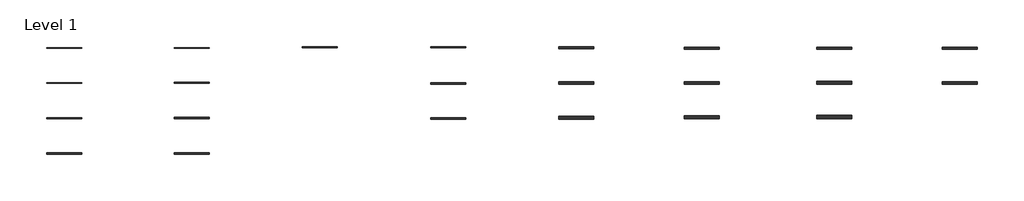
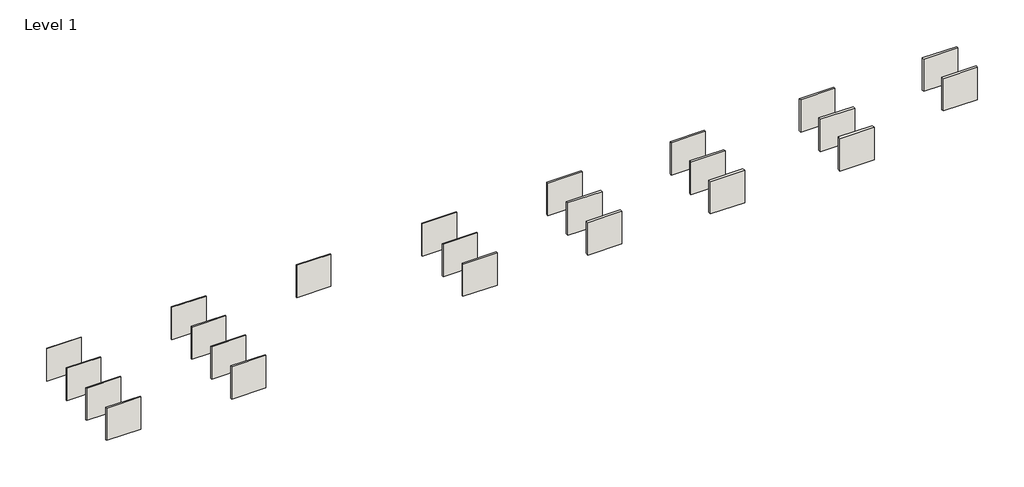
# One storey: 23 walls.
"""IFC4 building model written with IfcOpenShell, lengths in millimetres."""

from ifc_helpers import new_model, si_unit, origin, origin_with_axes, place, context, project, spatial, polyline, outline, extrude, element, save

model = new_model("IFC4")

# Units and contexts
model_context = context("Model", 3, world=origin())
ifc_project = project(units=[si_unit("LENGTHUNIT", "METRE", prefix="MILLI")], contexts=[model_context])

# Site, building, storey
site = spatial("IfcSite", under=ifc_project)
building = spatial("IfcBuilding", under=site)
storey = spatial("IfcBuildingStorey", under=building, Name="Level 1", Elevation=0.0)

# Walls
placement = place(None, origin())
element("IfcWall", 1, ObjectType="VE FR45 450 -/AA M45", at=placement, inside=storey, context=model_context, shape_type="SweptSolid", body=[
    extrude(outline(polyline([(-30829.3743374, -13106.2909442), (-34829.3743374, -13106.2909442), (-34829.3743374, -13036.290942), (-30829.3743374, -13036.290942), (-30829.3743374, -13106.2909442)])), origin_with_axes(), (0.0, 0.0, 1.0), 4000.0),
])
element("IfcWall", 2, ObjectType="VE FR70 450 -/AA M45", at=placement, inside=storey, context=model_context, shape_type="SweptSolid", body=[
    extrude(outline(polyline([(-30829.3743374, -17123.8603078), (-34829.3743374, -17123.8603078), (-34829.3743374, -17028.8603048), (-30829.3743374, -17028.8603048), (-30829.3743374, -17123.8603078)])), origin_with_axes(), (0.0, 0.0, 1.0), 4000.0),
])
element("IfcWall", 3, ObjectType="VE FR95 450 -/AA M45", at=placement, inside=storey, context=model_context, shape_type="SweptSolid", body=[
    extrude(outline(polyline([(-30829.3743374, -21141.4296714), (-34829.3743374, -21141.4296714), (-34829.3743374, -21021.4296676), (-30829.3743374, -21021.4296676), (-30829.3743374, -21141.4296714)])), origin_with_axes(), (0.0, 0.0, 1.0), 4000.0),
])
element("IfcWall", 4, ObjectType="VE FR120 450 -/AA M45", at=placement, inside=storey, context=model_context, shape_type="SweptSolid", body=[
    extrude(outline(polyline([(-30829.3743374, -25207.4034851), (-34829.3743374, -25207.4034851), (-34829.3743374, -25062.4034805), (-30829.3743374, -25062.4034805), (-30829.3743374, -25207.4034851)])), origin_with_axes(), (0.0, 0.0, 1.0), 4000.0),
])
element("IfcWall", 5, ObjectType="VE FR45 450 -/AAA M45", at=placement, inside=storey, context=model_context, shape_type="SweptSolid", body=[
    extrude(outline(polyline([(-16205.0453485, -13106.2909442), (-20205.0453485, -13106.2909442), (-20205.0453485, -13021.2909415), (-16205.0453485, -13021.2909415), (-16205.0453485, -13106.2909442)])), origin_with_axes(), (0.0, 0.0, 1.0), 4000.0),
])
element("IfcWall", 6, ObjectType="VE FR70 450 -/AAA M45", at=placement, inside=storey, context=model_context, shape_type="SweptSolid", body=[
    extrude(outline(polyline([(-16205.0453485, -17123.8603078), (-20205.0453485, -17123.8603078), (-20205.0453485, -17013.8603043), (-16205.0453485, -17013.8603043), (-16205.0453485, -17123.8603078)])), origin_with_axes(), (0.0, 0.0, 1.0), 4000.0),
])
element("IfcWall", 7, ObjectType="VE FR95 450 -/AAA M45", at=placement, inside=storey, context=model_context, shape_type="SweptSolid", body=[
    extrude(outline(polyline([(-16205.0453485, -21141.4296714), (-20205.0453485, -21141.4296714), (-20205.0453485, -21006.4296671), (-16205.0453485, -21006.4296671), (-16205.0453485, -21141.4296714)])), origin_with_axes(), (0.0, 0.0, 1.0), 4000.0),
])
element("IfcWall", 8, ObjectType="VE FR120 450 -/AAA M45", at=placement, inside=storey, context=model_context, shape_type="SweptSolid", body=[
    extrude(outline(polyline([(-16205.0453485, -25207.4034851), (-20205.0453485, -25207.4034851), (-20205.0453485, -25047.40348), (-16205.0453485, -25047.40348), (-16205.0453485, -25207.4034851)])), origin_with_axes(), (0.0, 0.0, 1.0), 4000.0),
])
element("IfcWall", 9, ObjectType="VE FR45 450 AA/AA M45", at=placement, inside=storey, context=model_context, shape_type="SweptSolid", body=[
    extrude(outline(polyline([(-1557.4424045, -13021.2909415), (-5557.4424045, -13021.2909415), (-5557.4424045, -12926.2909385), (-1557.4424045, -12926.2909385), (-1557.4424045, -13021.2909415)])), origin_with_axes(), (0.0, 0.0, 1.0), 4000.0),
])
element("IfcWall", 10, ObjectType="VE FR70 450 AA/AA M45", at=placement, inside=storey, context=model_context, shape_type="SweptSolid", body=[
    extrude(outline(polyline([(13151.8991673, -13021.2909415), (9151.8991673, -13021.2909415), (9151.8991673, -12901.2909377), (13151.8991673, -12901.2909377), (13151.8991673, -13021.2909415)])), origin_with_axes(), (0.0, 0.0, 1.0), 4000.0),
])
element("IfcWall", 11, ObjectType="VE FR95 450 AA/AA M45", at=placement, inside=storey, context=model_context, shape_type="SweptSolid", body=[
    extrude(outline(polyline([(13151.8991673, -17204.027693), (9151.8991673, -17204.027693), (9151.8991673, -17059.0276884), (13151.8991673, -17059.0276884), (13151.8991673, -17204.027693)])), origin_with_axes(), (0.0, 0.0, 1.0), 4000.0),
])
element("IfcWall", 12, ObjectType="VE FR120 450 AA/AA M45", at=placement, inside=storey, context=model_context, shape_type="SweptSolid", body=[
    extrude(outline(polyline([(13151.8991673, -21230.1067236), (9151.8991673, -21230.1067236), (9151.8991673, -21060.1067182), (13151.8991673, -21060.1067182), (13151.8991673, -21230.1067236)])), origin_with_axes(), (0.0, 0.0, 1.0), 4000.0),
])
element("IfcWall", 13, ObjectType="VD FR70 450 AA/AA M140", at=placement, inside=storey, context=model_context, shape_type="SweptSolid", body=[
    extrude(outline(polyline([(27755.5858329, -13161.2909396), (23755.5858329, -13161.2909396), (23755.5858329, -12931.2909322), (27755.5858329, -12931.2909322), (27755.5858329, -13161.2909396)])), origin_with_axes(), (0.0, 0.0, 1.0), 4000.0),
])
element("IfcWall", 14, ObjectType="VD FR95 450 AA/AA M140", at=placement, inside=storey, context=model_context, shape_type="SweptSolid", body=[
    extrude(outline(polyline([(27755.5858329, -17204.027693), (23755.5858329, -17204.027693), (23755.5858329, -16904.0276834), (27755.5858329, -16904.0276834), (27755.5858329, -17204.027693)])), origin_with_axes(), (0.0, 0.0, 1.0), 4000.0),
])
element("IfcWall", 15, ObjectType="VD FR120 450 AA/AA M140", at=placement, inside=storey, context=model_context, shape_type="SweptSolid", body=[
    extrude(outline(polyline([(27755.5858329, -21230.1067236), (23755.5858329, -21230.1067236), (23755.5858329, -20880.1067124), (27755.5858329, -20880.1067124), (27755.5858329, -21230.1067236)])), origin_with_axes(), (0.0, 0.0, 1.0), 4000.0),
])
element("IfcWall", 16, ObjectType="VD FR70 450 AAA/AAA M140", at=placement, inside=storey, context=model_context, shape_type="SweptSolid", body=[
    extrude(outline(polyline([(42140.5778662, -13221.9295381), (38140.5778662, -13221.9295381), (38140.5778662, -12996.9295309), (42140.5778662, -12996.9295309), (42140.5778662, -13221.9295381)])), origin_with_axes(), (0.0, 0.0, 1.0), 4000.0),
])
element("IfcWall", 17, ObjectType="VD FR95 450 AAA/AAA M140", at=placement, inside=storey, context=model_context, shape_type="SweptSolid", body=[
    extrude(outline(polyline([(42140.5778662, -17204.027693), (38140.5778662, -17204.027693), (38140.5778662, -16939.0276845), (42140.5778662, -16939.0276845), (42140.5778662, -17204.027693)])), origin_with_axes(), (0.0, 0.0, 1.0), 4000.0),
])
element("IfcWall", 18, ObjectType="VD FR70 450 FF/FF M140", at=placement, inside=storey, context=model_context, shape_type="SweptSolid", body=[
    extrude(outline(polyline([(57288.8643912, -13198.8908192), (53288.8643912, -13198.8908192), (53288.8643912, -12968.8908118), (57288.8643912, -12968.8908118), (57288.8643912, -13198.8908192)])), origin_with_axes(), (0.0, 0.0, 1.0), 4000.0),
])
element("IfcWall", 19, ObjectType="VD FR95 450 FF/FF M140", at=placement, inside=storey, context=model_context, shape_type="SweptSolid", body=[
    extrude(outline(polyline([(57288.8643912, -17204.027693), (53288.8643912, -17204.027693), (53288.8643912, -16894.0276831), (57288.8643912, -16894.0276831), (57288.8643912, -17204.027693)])), origin_with_axes(), (0.0, 0.0, 1.0), 4000.0),
])
element("IfcWall", 20, ObjectType="VD FR120 450 FF/FF M140", at=placement, inside=storey, context=model_context, shape_type="SweptSolid", body=[
    extrude(outline(polyline([(57288.8643912, -21141.2467251), (53288.8643912, -21141.2467251), (53288.8643912, -20781.2467135), (57288.8643912, -20781.2467135), (57288.8643912, -21141.2467251)])), origin_with_axes(), (0.0, 0.0, 1.0), 4000.0),
])
element("IfcWall", 21, ObjectType="VD FR70 450 AFF/FFA M140", at=placement, inside=storey, context=model_context, shape_type="SweptSolid", body=[
    extrude(outline(polyline([(71672.946746, -13198.8908192), (67672.946746, -13198.8908192), (67672.946746, -12963.8908117), (71672.946746, -12963.8908117), (71672.946746, -13198.8908192)])), origin_with_axes(), (0.0, 0.0, 1.0), 4000.0),
])
element("IfcWall", 22, ObjectType="VD FR95 450 AFF/FFA M140", at=placement, inside=storey, context=model_context, shape_type="SweptSolid", body=[
    extrude(outline(polyline([(71672.946746, -17188.3691314), (67672.946746, -17188.3691314), (67672.946746, -16913.3691226), (71672.946746, -16913.3691226), (71672.946746, -17188.3691314)])), origin_with_axes(), (0.0, 0.0, 1.0), 4000.0),
])
element("IfcWall", 23, ObjectType="VD FR120 450 AAA/AAA M140", at=placement, inside=storey, context=model_context, shape_type="SweptSolid", body=[
    extrude(outline(polyline([(42140.5778662, -21141.2467251), (38140.5778662, -21141.2467251), (38140.5778662, -20826.246715), (42140.5778662, -20826.246715), (42140.5778662, -21141.2467251)])), origin_with_axes(), (0.0, 0.0, 1.0), 4000.0),
])

save(model, "model.ifc")
